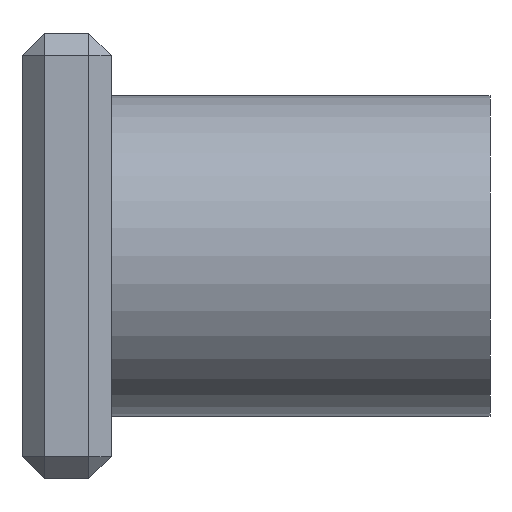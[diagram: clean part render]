
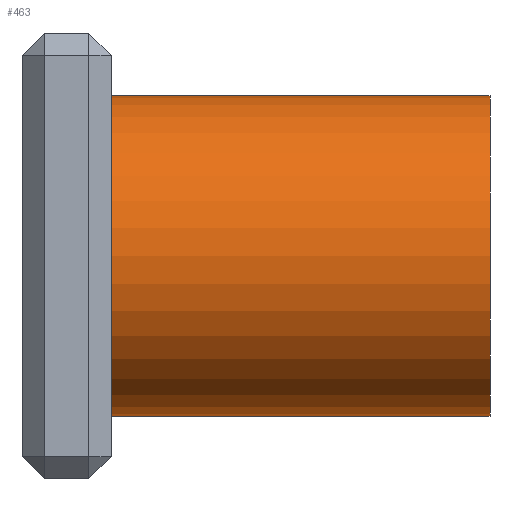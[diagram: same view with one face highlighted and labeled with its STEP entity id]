
A CAD part, left-side view. The second image highlights one B-rep face of the part: STEP entity #463.
In plain terms, the highlighted cylindrical face has radius 3.6 mm (diameter 7.2 mm), a partial arc.
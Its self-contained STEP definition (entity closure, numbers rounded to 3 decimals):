
#1 = VERTEX_POINT ( 'NONE', #719 ) ;
#18 = DIRECTION ( 'NONE',  ( 0., 0., 1. ) ) ;
#22 = DIRECTION ( 'NONE',  ( 0., 1., 0. ) ) ;
#29 = VERTEX_POINT ( 'NONE', #236 ) ;
#39 = VERTEX_POINT ( 'NONE', #128 ) ;
#84 = CARTESIAN_POINT ( 'NONE',  ( 0., -8.5, -3.6 ) ) ;
#108 = FACE_OUTER_BOUND ( 'NONE', #361, .T. ) ;
#127 = ORIENTED_EDGE ( 'NONE', *, *, #580, .T. ) ;
#128 = CARTESIAN_POINT ( 'NONE',  ( 0., 0., -3.6 ) ) ;
#135 = CARTESIAN_POINT ( 'NONE',  ( 0., -8.5, 3.6 ) ) ;
#236 = CARTESIAN_POINT ( 'NONE',  ( 0., 0., 3.6 ) ) ;
#273 = AXIS2_PLACEMENT_3D ( 'NONE', #347, #637, #276 ) ;
#276 = DIRECTION ( 'NONE',  ( 0., 0., -1. ) ) ;
#295 = EDGE_CURVE ( 'NONE', #29, #39, #537, .T. ) ;
#296 = CIRCLE ( 'NONE', #539, 3.6 ) ;
#346 = ORIENTED_EDGE ( 'NONE', *, *, #722, .F. ) ;
#347 = CARTESIAN_POINT ( 'NONE',  ( 0., 0., 0. ) ) ;
#361 = EDGE_LOOP ( 'NONE', ( #699, #346, #127, #481 ) ) ;
#388 = DIRECTION ( 'NONE',  ( 0., 1., 0. ) ) ;
#392 = CARTESIAN_POINT ( 'NONE',  ( 0., -8.5, 3.6 ) ) ;
#413 = LINE ( 'NONE', #84, #636 ) ;
#457 = DIRECTION ( 'NONE',  ( 0., 0., -1. ) ) ;
#463 = ADVANCED_FACE ( 'NONE', ( #108 ), #689, .T. ) ;
#481 = ORIENTED_EDGE ( 'NONE', *, *, #295, .T. ) ;
#497 = CARTESIAN_POINT ( 'NONE',  ( 0., -8.5, 0. ) ) ;
#511 = LINE ( 'NONE', #135, #536 ) ;
#532 = EDGE_CURVE ( 'NONE', #1, #39, #413, .T. ) ;
#536 = VECTOR ( 'NONE', #614, 1000. ) ;
#537 = CIRCLE ( 'NONE', #273, 3.6 ) ;
#539 = AXIS2_PLACEMENT_3D ( 'NONE', #565, #567, #457 ) ;
#565 = CARTESIAN_POINT ( 'NONE',  ( 0., -8.5, 0. ) ) ;
#567 = DIRECTION ( 'NONE',  ( 0., -1., 0. ) ) ;
#580 = EDGE_CURVE ( 'NONE', #735, #29, #511, .T. ) ;
#614 = DIRECTION ( 'NONE',  ( 0., 1., 0. ) ) ;
#636 = VECTOR ( 'NONE', #388, 1000. ) ;
#637 = DIRECTION ( 'NONE',  ( 0., -1., 0. ) ) ;
#643 = AXIS2_PLACEMENT_3D ( 'NONE', #497, #22, #18 ) ;
#689 = CYLINDRICAL_SURFACE ( 'NONE', #643, 3.6 ) ;
#699 = ORIENTED_EDGE ( 'NONE', *, *, #532, .F. ) ;
#719 = CARTESIAN_POINT ( 'NONE',  ( 0., -8.5, -3.6 ) ) ;
#722 = EDGE_CURVE ( 'NONE', #735, #1, #296, .T. ) ;
#735 = VERTEX_POINT ( 'NONE', #392 ) ;
